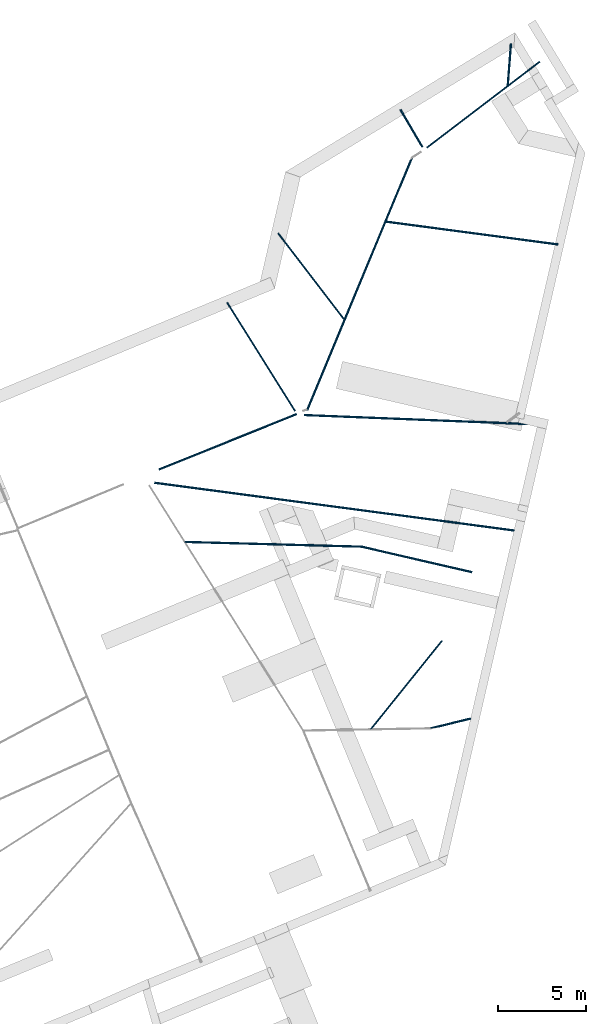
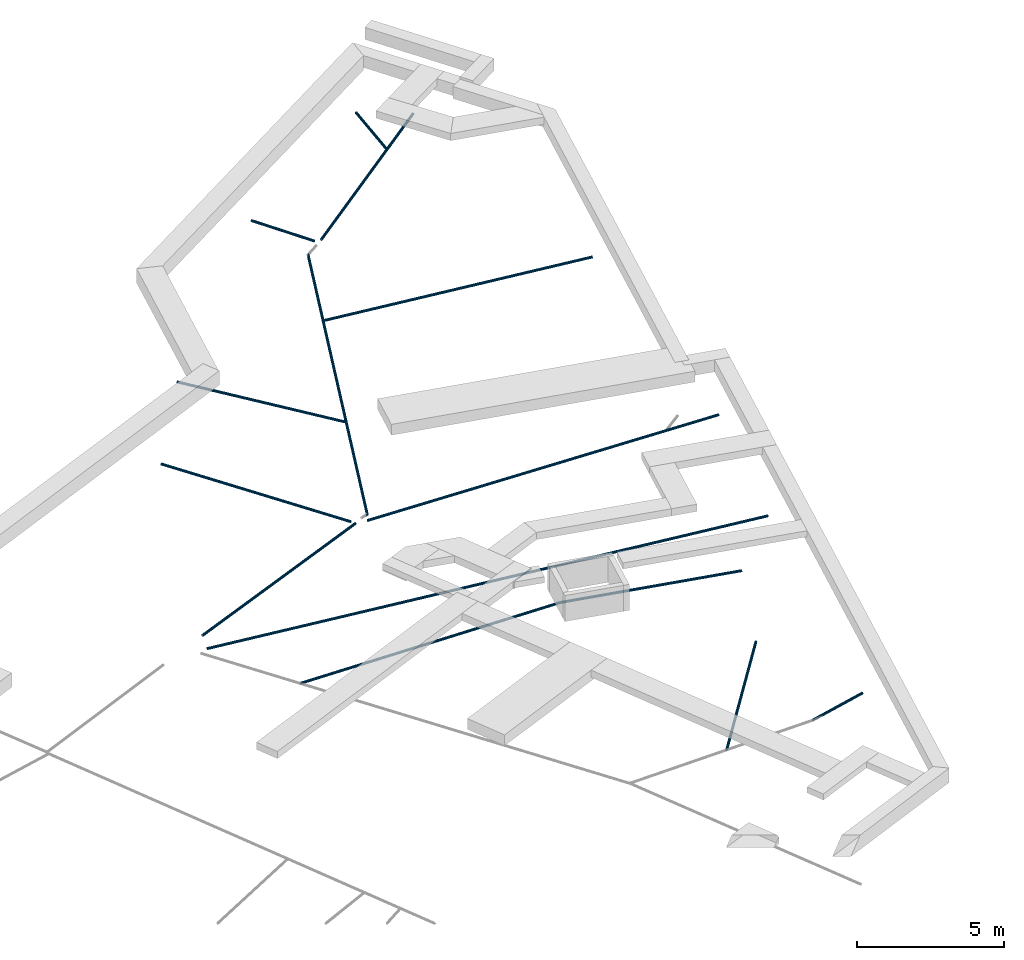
# One storey, part 2 of 6: 14 walls.
"""IFC2X3 building model written with IfcOpenShell, lengths in metres."""

from ifc_helpers import new_model, entity, si_unit, converted_unit, derived_unit, money_unit, direction, frame, origin_with_axes, place, context, subcontext, project, spatial, faceted_brep, material, type_object, element, save


model = new_model("IFC2X3")

# Units and contexts
model_context = context("Model", 3, precision=1e-05, world=origin_with_axes(), true_north=direction((0.0, 1.0)))
body_context = subcontext(model_context, "Body", "Model", "MODEL_VIEW")
ifc_project = project(units=[si_unit("LENGTHUNIT", "METRE"), si_unit("AREAUNIT", "SQUARE_METRE"), si_unit("VOLUMEUNIT", "CUBIC_METRE"), converted_unit("PLANEANGLEUNIT", "DEGREE", entity("IfcPlaneAngleMeasure", 0.0174532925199), si_unit("PLANEANGLEUNIT", "RADIAN"), dimensions=[0, 0, 0, 0, 0, 0, 0]), si_unit("SOLIDANGLEUNIT", "STERADIAN"), money_unit("EUR"), converted_unit("TIMEUNIT", "Year", entity("IfcTimeMeasure", 31556926.0), si_unit("TIMEUNIT", "SECOND"), dimensions=[0, 0, 1, 0, 0, 0, 0]), si_unit("MASSUNIT", "GRAM", prefix="KILO"), si_unit("THERMODYNAMICTEMPERATUREUNIT", "DEGREE_CELSIUS"), si_unit("LUMINOUSINTENSITYUNIT", "LUMEN"), si_unit("ENERGYUNIT", "JOULE", prefix="MEGA"), derived_unit("THERMALCONDUCTANCEUNIT", [(si_unit("POWERUNIT", "WATT"), 1), (si_unit("LENGTHUNIT", "METRE"), -1), (si_unit("THERMODYNAMICTEMPERATUREUNIT", "KELVIN"), -1)]), derived_unit("SPECIFICHEATCAPACITYUNIT", [(si_unit("ENERGYUNIT", "JOULE"), 1), (si_unit("MASSUNIT", "GRAM", prefix="KILO"), -1), (si_unit("THERMODYNAMICTEMPERATUREUNIT", "KELVIN"), -1)]), derived_unit("MASSDENSITYUNIT", [(si_unit("MASSUNIT", "GRAM", prefix="KILO"), 1), (si_unit("VOLUMEUNIT", "CUBIC_METRE"), -1)])], contexts=[model_context])

# Site, building, storey
site_placement = place(None, origin_with_axes())
site = spatial("IfcSite", under=ifc_project, at=site_placement, Name="Site", CompositionType="ELEMENT")
building_placement = place(site_placement, origin_with_axes())
building = spatial("IfcBuilding", under=site, at=building_placement, Name="Bâtiment", CompositionType="ELEMENT")
storey_placement = place(building_placement, frame((0.0, 0.0, -5.7), z_axis=(0.0, 0.0, 1.0), x_axis=(1.0, 0.0, 0.0)))
storey = spatial("IfcBuildingStorey", under=building, at=storey_placement, Name="-2. Etage", CompositionType="ELEMENT", Elevation=-5.7)

# Walls
ifc_material = material(Name="Plastique - PVC")
wall_type = type_object("IfcWallType", Name="Tuyau PVC 100 100 x 100", PredefinedType="ELEMENTEDWALL")
wall_1_placement = place(storey_placement, frame((-5.41813797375, 19.0816543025, 0.0), z_axis=(0.0, 0.0, 1.0), x_axis=(-0.383494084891, -0.923543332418, 0.0)))
element("IfcWall", 1, at=wall_1_placement, inside=storey, type_object=wall_type, material=ifc_material, Name="M_Ext-015", ObjectType="ELEMENTEDWALL", context=body_context, shape_type="Brep", body=[
    faceted_brep([(15.5886469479, 0.0461939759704, -0.0191341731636), (0.0143581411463, 0.0461939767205, -0.0191341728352), (0.0155411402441, 0.049999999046, 0.0), (15.5904151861, 0.05, 0.0), (15.5836114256, 0.035355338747, -0.0353553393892), (0.0109892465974, 0.0353553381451, -0.035355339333), (0.160863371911, -0.05, 0.0), (0.14861837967, -0.046193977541, -0.0191341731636), (0.0143581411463, 0.0461939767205, 0.0191341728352), (15.5886469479, 0.0461939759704, 0.0191341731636), (15.674807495, -0.05, 0.0), (15.6666152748, -0.0461939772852, -0.0191341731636), (15.5760752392, 0.0191341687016, -0.0461939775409), (0.00594734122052, 0.0191341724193, -0.0461939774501), (0.11374758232, -0.0353553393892, -0.0353553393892), (15.6432857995, -0.0353553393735, -0.0353553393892), (0.14861837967, -0.0461939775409, 0.0191341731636), (0.0109892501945, 0.0353553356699, 0.035355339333), (15.5836114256, 0.035355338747, 0.0353553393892), (15.6666152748, -0.0461939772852, 0.0191341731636), (15.5671856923, 0.0, -0.05), (0.0, 0.0, -0.05), (0.0615597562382, -0.0191341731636, -0.0461939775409), (15.6083707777, -0.0191341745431, -0.0461939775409), (0.11374758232, -0.0353553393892, 0.0353553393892), (0.00594734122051, 0.0191341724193, 0.0461939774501), (15.5760752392, 0.0191341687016, 0.0461939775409), (15.6432857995, -0.0353553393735, 0.0353553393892), (0.0615597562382, -0.0191341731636, 0.0461939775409), (0.0, 0.0, 0.05), (15.5671856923, 0.0, 0.05), (15.6083707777, -0.0191341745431, 0.0461939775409)], [[[0, 1, 2, 3]], [[4, 5, 1, 0]], [[6, 2, 1, 7]], [[3, 2, 8, 9]], [[10, 11, 0, 3]], [[12, 13, 5, 4]], [[7, 1, 5, 14]], [[11, 15, 4, 0]], [[16, 8, 2, 6]], [[10, 6, 7, 11]], [[9, 8, 17, 18]], [[19, 10, 3, 9]], [[20, 21, 13, 12]], [[14, 5, 13, 22]], [[15, 23, 12, 4]], [[11, 7, 14, 15]], [[24, 17, 8, 16]], [[19, 16, 6, 10]], [[18, 17, 25, 26]], [[27, 19, 9, 18]], [[23, 22, 21, 20]], [[22, 13, 21]], [[12, 23, 20]], [[15, 14, 22, 23]], [[28, 25, 17, 24]], [[27, 24, 16, 19]], [[26, 25, 29, 30]], [[31, 27, 18, 26]], [[28, 29, 25]], [[31, 28, 24, 27]], [[30, 29, 28, 31]], [[30, 31, 26]]]),
])
wall_2_placement = place(storey_placement, frame((-8.3057929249, -3.13248174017, 0.0), z_axis=(0.0, 0.0, 1.0), x_axis=(-0.999644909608, 0.0266468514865, 0.0)))
element("IfcWall", 2, at=wall_2_placement, inside=storey, type_object=wall_type, material=ifc_material, Name="M_Ext-038", ObjectType="ELEMENTEDWALL", context=body_context, shape_type="Brep", body=[
    faceted_brep([(10.0581222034, 0.0191341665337, 0.0461939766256), (0.00192144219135, 0.0191341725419, 0.0461939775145), (0.0, 0.0, 0.05), (10.0938514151, 0.0, 0.05), (10.0278324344, 0.035355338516, 0.0353553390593), (0.00355035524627, 0.0353553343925, 0.035355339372), (0.190544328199, -0.0191341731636, 0.0461939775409), (10.0836044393, -0.0191341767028, 0.0461939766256), (10.0075934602, 0.04619397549, 0.0191341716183), (0.00463873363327, 0.0461939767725, 0.01913417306), (0.352079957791, -0.0353553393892, 0.0353553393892), (10.0749174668, -0.0353553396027, 0.0353553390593), (10.0004864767, 0.05, 0.0), (0.00502093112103, 0.049999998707, 0.0), (0.460014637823, -0.0461939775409, 0.0191341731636), (10.0691130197, -0.0461939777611, 0.0191341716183), (10.0075934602, 0.04619397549, -0.0191341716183), (0.00463873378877, 0.0461939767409, -0.01913417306), (0.497916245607, -0.05, 0.0), (10.0670747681, -0.05, 0.0), (10.0278324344, 0.035355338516, -0.0353553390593), (0.00355033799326, 0.0353553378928, -0.035355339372), (0.460014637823, -0.0461939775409, -0.0191341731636), (10.0691130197, -0.0461939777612, -0.0191341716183), (10.0581222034, 0.0191341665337, -0.0461939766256), (0.00192144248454, 0.0191341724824, -0.0461939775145), (0.352079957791, -0.0353553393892, -0.0353553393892), (10.0749174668, -0.0353553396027, -0.0353553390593), (10.0938514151, 0.0, -0.05), (0.0, 0.0, -0.05), (0.190544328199, -0.0191341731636, -0.0461939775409), (10.0836044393, -0.0191341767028, -0.0461939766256)], [[[0, 1, 2, 3]], [[4, 5, 1, 0]], [[1, 6, 2]], [[3, 2, 6, 7]], [[7, 0, 3]], [[8, 9, 5, 4]], [[6, 1, 5, 10]], [[11, 4, 0, 7]], [[7, 6, 10, 11]], [[12, 13, 9, 8]], [[10, 5, 9, 14]], [[15, 8, 4, 11]], [[11, 10, 14, 15]], [[16, 17, 13, 12]], [[14, 9, 13, 18]], [[19, 12, 8, 15]], [[15, 14, 18, 19]], [[20, 21, 17, 16]], [[18, 13, 17, 22]], [[23, 16, 12, 19]], [[19, 18, 22, 23]], [[24, 25, 21, 20]], [[22, 17, 21, 26]], [[27, 20, 16, 23]], [[23, 22, 26, 27]], [[28, 29, 25, 24]], [[26, 21, 25, 30]], [[31, 24, 20, 27]], [[27, 26, 30, 31]], [[31, 30, 29, 28]], [[30, 25, 29]], [[31, 28, 24]]]),
])
wall_3_placement = place(storey_placement, frame((-4.57787657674, 19.6350871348, 0.0), z_axis=(0.0, 0.0, 1.0), x_axis=(0.7954328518, 0.606041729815, 0.0)))
element("IfcWall", 3, at=wall_3_placement, inside=storey, type_object=wall_type, material=ifc_material, Name="M_Ext-011", ObjectType="ELEMENTEDWALL", context=body_context, shape_type="Brep", body=[
    faceted_brep([(0.0, -0.0461939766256, 0.0191341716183), (8.11656189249, -0.0461939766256, 0.0191341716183), (8.11656189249, -0.0353553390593, 0.0353553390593), (0.0, -0.0353553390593, 0.0353553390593), (0.0, -0.05, 0.0), (8.11656189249, -0.05, 0.0), (8.11656189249, -0.0461939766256, -0.0191341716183), (8.11656189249, -0.0353553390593, -0.0353553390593), (8.11656189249, -0.0191341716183, -0.0461939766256), (8.11656189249, 0.0, -0.05), (8.11656189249, 0.0191341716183, -0.0461939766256), (8.11656189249, 0.0353553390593, -0.0353553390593), (8.11656189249, 0.0461939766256, -0.0191341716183), (8.11656189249, 0.05, 0.0), (8.11656189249, 0.0461939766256, 0.0191341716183), (8.11656189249, 0.0353553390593, 0.0353553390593), (8.11656189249, 0.0191341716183, 0.0461939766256), (8.11656189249, 0.0, 0.05), (8.11656189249, -0.0191341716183, 0.0461939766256), (0.0, -0.0191341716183, 0.0461939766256), (0.0, 0.0, 0.05), (0.0, 0.0191341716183, 0.0461939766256), (0.0, 0.0353553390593, 0.0353553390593), (0.0, 0.0461939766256, 0.0191341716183), (0.0, 0.05, 0.0), (0.0, 0.0461939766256, -0.0191341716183), (0.0, 0.0353553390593, -0.0353553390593), (0.0, 0.0191341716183, -0.0461939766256), (0.0, 0.0, -0.05), (0.0, -0.0191341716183, -0.0461939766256), (0.0, -0.0353553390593, -0.0353553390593), (0.0, -0.0461939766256, -0.0191341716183)], [[[0, 1, 2, 3]], [[4, 5, 1, 0]], [[2, 1, 5, 6, 7, 8, 9, 10, 11, 12, 13, 14, 15, 16, 17, 18]], [[3, 2, 18, 19]], [[4, 0, 3, 19, 20, 21, 22, 23, 24, 25, 26, 27, 28, 29, 30, 31]], [[31, 6, 5, 4]], [[30, 7, 6, 31]], [[29, 8, 7, 30]], [[28, 9, 8, 29]], [[27, 10, 9, 28]], [[26, 11, 10, 27]], [[25, 12, 11, 26]], [[24, 13, 12, 25]], [[23, 14, 13, 24]], [[22, 15, 14, 23]], [[21, 16, 15, 22]], [[20, 17, 16, 21]], [[19, 18, 17, 20]]]),
])
wall_4_placement = place(storey_placement, frame((0.227461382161, 25.5768181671, 0.0), z_axis=(0.0, 0.0, 1.0), x_axis=(-0.0766655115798, -0.997056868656, 0.0)))
element("IfcWall", 4, at=wall_4_placement, inside=storey, type_object=wall_type, material=ifc_material, Name="M_Ext-012", ObjectType="ELEMENTEDWALL", context=body_context, shape_type="Brep", body=[
    faceted_brep([(0.0, 0.0461939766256, 0.0191341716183), (2.32657449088, 0.0461939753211, 0.0191341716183), (2.3180857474, 0.05, 0.0), (0.0, 0.05, 0.0), (0.0, 0.0353553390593, 0.0353553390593), (2.35074838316, 0.035355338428, 0.0353553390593), (2.40718489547, -0.05, 0.0), (2.40889137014, -0.0461939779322, 0.0191341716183), (2.32657449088, 0.0461939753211, -0.0191341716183), (0.0, 0.0461939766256, -0.0191341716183), (0.0, -0.0353553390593, -0.0353553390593), (0.0, -0.0461939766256, -0.0191341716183), (0.0, -0.05, 0.0), (0.0, -0.0461939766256, 0.0191341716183), (0.0, -0.0353553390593, 0.0353553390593), (0.0, -0.0191341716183, 0.0461939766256), (0.0, 0.0, 0.05), (0.0, 0.0191341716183, 0.0461939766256), (0.0, 0.0353553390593, -0.0353553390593), (0.0, 0.0191341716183, -0.0461939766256), (0.0, 0.0, -0.05), (0.0, -0.0191341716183, -0.0461939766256), (2.38692717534, 0.0191341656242, 0.0461939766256), (2.41375099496, -0.0353553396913, 0.0353553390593), (2.40889137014, -0.0461939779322, -0.0191341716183), (2.35074838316, 0.035355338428, -0.0353553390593), (2.41375099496, -0.0353553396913, -0.0353553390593), (2.42102394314, -0.0191341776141, 0.0461939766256), (2.42960295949, 0.0, 0.05), (2.38692717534, 0.0191341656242, -0.0461939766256), (2.42960295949, 0.0, -0.05), (2.42102394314, -0.0191341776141, -0.0461939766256)], [[[0, 1, 2, 3]], [[4, 5, 1, 0]], [[6, 2, 1, 7]], [[3, 2, 8, 9]], [[10, 11, 12, 13, 14, 15, 16, 17, 4, 0, 3, 9, 18, 19, 20, 21]], [[17, 22, 5, 4]], [[7, 1, 5, 23]], [[24, 8, 2, 6]], [[12, 6, 7, 13]], [[9, 8, 25, 18]], [[10, 26, 24, 11]], [[11, 24, 6, 12]], [[13, 7, 23, 14]], [[14, 23, 27, 15]], [[15, 27, 28, 16]], [[16, 28, 22, 17]], [[18, 25, 29, 19]], [[19, 29, 30, 20]], [[20, 30, 31, 21]], [[21, 31, 26, 10]], [[23, 5, 22, 27]], [[26, 25, 8, 24]], [[27, 22, 28]], [[31, 29, 25, 26]], [[31, 30, 29]]]),
])
wall_5_placement = place(storey_placement, frame((2.91325547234, 14.1181964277, 0.0), z_axis=(0.0, 0.0, 1.0), x_axis=(-0.991334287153, 0.131363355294, 0.0)))
element("IfcWall", 5, at=wall_5_placement, inside=storey, type_object=wall_type, material=ifc_material, Name="M_Ext-017", ObjectType="ELEMENTEDWALL", context=body_context, shape_type="Brep", body=[
    faceted_brep([(0.0, -0.0461939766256, -0.0191341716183), (9.87632051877, -0.0461939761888, -0.0191341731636), (9.87136024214, -0.04999999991, 0.0), (0.0, -0.05, 0.0), (0.0, -0.0353553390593, -0.0353553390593), (9.89044619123, -0.0353553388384, -0.0353553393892), (9.89815871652, 0.05000000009, 0.0), (9.90107908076, 0.0461939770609, -0.0191341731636), (9.8763205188, -0.0461939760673, 0.0191341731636), (0.0, -0.0461939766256, 0.0191341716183), (0.0, -0.0353553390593, 0.0353553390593), (0.0, -0.0191341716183, 0.0461939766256), (0.0, 0.0, 0.05), (0.0, 0.0191341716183, 0.0461939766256), (0.0, 0.0353553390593, 0.0353553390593), (0.0, 0.0461939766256, 0.0191341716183), (0.0, 0.05, 0.0), (0.0, 0.0461939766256, -0.0191341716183), (0.0, 0.0353553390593, -0.0353553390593), (0.0, 0.0191341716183, -0.0461939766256), (0.0, 0.0, -0.05), (0.0, -0.0191341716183, -0.0461939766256), (9.91158675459, -0.0191341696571, -0.0461939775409), (9.90939557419, 0.0353553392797, -0.0353553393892), (9.9010790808, 0.0461939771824, 0.0191341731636), (9.89044619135, -0.0353553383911, 0.0353553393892), (9.91158675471, -0.0191341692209, 0.0461939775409), (9.93652374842, 0.0, 0.05), (9.92184208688, 0.019134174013, 0.0461939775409), (9.90939557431, 0.035355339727, 0.0353553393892), (9.92184208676, 0.0191341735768, -0.0461939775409), (9.93652374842, 0.0, -0.05)], [[[0, 1, 2, 3]], [[4, 5, 1, 0]], [[6, 2, 1, 7]], [[3, 2, 8, 9]], [[4, 0, 3, 9, 10, 11, 12, 13, 14, 15, 16, 17, 18, 19, 20, 21]], [[21, 22, 5, 4]], [[7, 1, 5, 23]], [[24, 8, 2, 6]], [[16, 6, 7, 17]], [[9, 8, 25, 10]], [[10, 25, 26, 11]], [[11, 26, 27, 12]], [[12, 27, 28, 13]], [[13, 28, 29, 14]], [[14, 29, 24, 15]], [[15, 24, 6, 16]], [[17, 7, 23, 18]], [[18, 23, 30, 19]], [[19, 30, 31, 20]], [[20, 31, 22, 21]], [[23, 5, 22, 30]], [[29, 25, 8, 24]], [[28, 26, 25, 29]], [[28, 27, 26]], [[30, 22, 31]]]),
])
wall_6_placement = place(storey_placement, frame((-3.70029176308, -8.49489079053, 0.0), z_axis=(0.0, 0.0, 1.0), x_axis=(-0.626757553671, -0.779214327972, 0.0)))
element("IfcWall", 6, at=wall_6_placement, inside=storey, type_object=wall_type, material=ifc_material, Name="M_Ext-035", ObjectType="ELEMENTEDWALL", context=body_context, shape_type="Brep", body=[
    faceted_brep([(0.0, 0.0461939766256, 0.0191341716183), (6.4021112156, 0.0461939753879, 0.0191341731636), (6.39398142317, 0.05, 0.0), (0.0, 0.05, 0.0), (0.0, 0.0353553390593, 0.0353553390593), (6.42526290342, 0.0353553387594, 0.0353553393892), (6.47737520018, -0.05, 0.0), (6.47915701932, -0.0461939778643, 0.0191341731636), (6.40211121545, 0.0461939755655, -0.0191341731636), (0.0, 0.0461939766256, -0.0191341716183), (0.0, -0.0353553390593, -0.0353553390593), (0.0, -0.0461939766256, -0.0191341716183), (0.0, -0.05, 0.0), (0.0, -0.0461939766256, 0.0191341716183), (0.0, -0.0353553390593, 0.0353553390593), (0.0, -0.0191341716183, 0.0461939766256), (0.0, 0.0, 0.05), (0.0, 0.0191341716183, 0.0461939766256), (0.0, 0.0353553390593, -0.0353553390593), (0.0, 0.0191341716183, -0.0461939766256), (0.0, 0.0, -0.05), (0.0, -0.0191341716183, -0.0461939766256), (6.45991185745, 0.0191341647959, 0.0461939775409), (6.48423120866, -0.0353553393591, 0.0353553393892), (6.47915701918, -0.0461939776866, -0.0191341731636), (6.42526290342, 0.0353553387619, -0.0353553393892), (6.48423120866, -0.0353553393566, -0.0353553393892), (6.49182527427, -0.0191341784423, 0.0461939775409), (6.50078307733, 0.0, 0.05), (6.45991185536, 0.0191341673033, -0.0461939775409), (6.50078307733, 0.0, -0.05), (6.49182527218, -0.0191341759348, -0.0461939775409)], [[[0, 1, 2, 3]], [[4, 5, 1, 0]], [[6, 2, 1, 7]], [[3, 2, 8, 9]], [[10, 11, 12, 13, 14, 15, 16, 17, 4, 0, 3, 9, 18, 19, 20, 21]], [[17, 22, 5, 4]], [[7, 1, 5, 23]], [[24, 8, 2, 6]], [[12, 6, 7, 13]], [[9, 8, 25, 18]], [[10, 26, 24, 11]], [[11, 24, 6, 12]], [[13, 7, 23, 14]], [[14, 23, 27, 15]], [[15, 27, 28, 16]], [[16, 28, 22, 17]], [[18, 25, 29, 19]], [[19, 29, 30, 20]], [[20, 30, 31, 21]], [[21, 31, 26, 10]], [[23, 5, 22, 27]], [[26, 25, 8, 24]], [[27, 22, 28]], [[31, 29, 25, 26]], [[31, 30, 29]]]),
])
wall_7_placement = place(storey_placement, frame((-2.07501762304, -12.9489072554, 0.0), z_axis=(0.0, 0.0, 1.0), x_axis=(-0.971939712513, -0.235230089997, 0.0)))
element("IfcWall", 7, at=wall_7_placement, inside=storey, type_object=wall_type, material=ifc_material, Name="M_Ext-036", ObjectType="ELEMENTEDWALL", context=body_context, shape_type="Brep", body=[
    faceted_brep([(0.0, 0.0461939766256, 0.0191341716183), (1.92300293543, 0.0461939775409, 0.0191341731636), (1.88850215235, 0.05, 0.0), (0.0, 0.05, 0.0), (0.0, 0.0353553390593, 0.0353553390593), (2.02125287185, 0.0353553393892, 0.0353553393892), (2.33622561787, -0.05, 0.0), (2.33664549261, -0.0461939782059, 0.0191341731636), (1.92300293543, 0.0461939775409, -0.0191341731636), (0.0, 0.0461939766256, -0.0191341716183), (0.0, -0.0353553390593, -0.0353553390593), (0.0, -0.0461939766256, -0.0191341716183), (0.0, -0.05, 0.0), (0.0, -0.0461939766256, 0.0191341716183), (0.0, -0.0353553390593, 0.0353553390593), (0.0, -0.0191341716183, 0.0461939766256), (0.0, 0.0, 0.05), (0.0, 0.0191341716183, 0.0461939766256), (0.0, 0.0353553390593, -0.0353553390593), (0.0, 0.0191341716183, -0.0461939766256), (0.0, 0.0, -0.05), (0.0, -0.0191341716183, -0.0461939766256), (2.16829427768, 0.0191341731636, 0.0461939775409), (2.33784117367, -0.0353553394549, 0.0353553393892), (2.33664549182, -0.0461939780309, -0.0191341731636), (2.02125287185, 0.0353553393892, -0.0353553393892), (2.33784117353, -0.0353553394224, -0.0353553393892), (2.33963068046, -0.0191341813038, 0.0461939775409), (2.34174146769, 0.0, 0.05), (2.16829427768, 0.0191341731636, -0.0461939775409), (2.34174146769, 0.0, -0.05), (2.33963066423, -0.0191341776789, -0.0461939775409)], [[[0, 1, 2, 3]], [[4, 5, 1, 0]], [[6, 2, 1, 7]], [[3, 2, 8, 9]], [[10, 11, 12, 13, 14, 15, 16, 17, 4, 0, 3, 9, 18, 19, 20, 21]], [[17, 22, 5, 4]], [[7, 1, 5, 23]], [[24, 8, 2, 6]], [[12, 6, 7, 13]], [[9, 8, 25, 18]], [[10, 26, 24, 11]], [[11, 24, 6, 12]], [[13, 7, 23, 14]], [[14, 23, 27, 15]], [[15, 27, 28, 16]], [[16, 28, 22, 17]], [[18, 25, 29, 19]], [[19, 29, 30, 20]], [[20, 30, 31, 21]], [[21, 31, 26, 10]], [[23, 5, 22, 27]], [[26, 25, 8, 24]], [[27, 22, 28]], [[31, 29, 25, 26]], [[31, 30, 29]]]),
])
wall_8_placement = place(storey_placement, frame((-1.99702034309, -4.58846617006, 0.0), z_axis=(0.0, 0.0, 1.0), x_axis=(-0.974387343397, 0.224876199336, 0.0)))
element("IfcWall", 8, at=wall_8_placement, inside=storey, type_object=wall_type, material=ifc_material, Name="M_Ext-037", ObjectType="ELEMENTEDWALL", context=body_context, shape_type="Brep", body=[
    faceted_brep([(0.0, -0.0461939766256, -0.0191341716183), (6.47924314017, -0.0461939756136, -0.0191341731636), (6.47962532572, -0.05, 0.0), (0.0, -0.05, 0.0), (0.0, -0.0353553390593, -0.0353553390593), (6.47815473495, -0.0353553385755, -0.0353553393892), (6.97252064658, 0.05, 0.0), (6.93461903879, 0.0461939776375, -0.0191341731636), (6.47924314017, -0.0461939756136, 0.0191341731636), (0.0, -0.0461939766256, 0.0191341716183), (0.0, -0.0353553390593, 0.0353553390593), (0.0, -0.0191341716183, 0.0461939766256), (0.0, 0.0, 0.05), (0.0, 0.0191341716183, 0.0461939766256), (0.0, 0.0353553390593, 0.0353553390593), (0.0, 0.0461939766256, 0.0191341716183), (0.0, 0.05, 0.0), (0.0, 0.0461939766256, -0.0191341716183), (0.0, 0.0353553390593, -0.0353553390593), (0.0, 0.0191341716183, -0.0461939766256), (0.0, 0.0, -0.05), (0.0, -0.0191341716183, -0.0461939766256), (6.47652585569, -0.0191341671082, -0.0461939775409), (6.82668435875, 0.0353553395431, -0.0353553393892), (6.93461903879, 0.0461939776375, 0.0191341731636), (6.47815473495, -0.0353553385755, 0.0353553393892), (6.47652585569, -0.0191341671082, 0.0461939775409), (6.47460440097, 0.0, 0.05), (6.66514872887, 0.0191341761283, 0.0461939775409), (6.82668435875, 0.0353553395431, 0.0353553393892), (6.66514872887, 0.0191341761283, -0.0461939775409), (6.47460440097, 0.0, -0.05)], [[[0, 1, 2, 3]], [[4, 5, 1, 0]], [[6, 2, 1, 7]], [[3, 2, 8, 9]], [[0, 3, 9, 10, 11, 12, 13, 14, 15, 16, 17, 18, 19, 20, 21, 4]], [[21, 22, 5, 4]], [[7, 1, 5, 23]], [[24, 8, 2, 6]], [[16, 6, 7, 17]], [[9, 8, 25, 10]], [[10, 25, 26, 11]], [[11, 26, 27, 12]], [[12, 27, 28, 13]], [[13, 28, 29, 14]], [[14, 29, 24, 15]], [[15, 24, 6, 16]], [[17, 7, 23, 18]], [[18, 23, 30, 19]], [[19, 30, 31, 20]], [[20, 31, 22, 21]], [[23, 5, 22, 30]], [[29, 25, 8, 24]], [[28, 26, 25, 29]], [[28, 27, 26]], [[30, 22, 31]]]),
])
wall_9_placement = place(storey_placement, frame((-6.07591618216, 21.8100402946, 0.0), z_axis=(0.0, 0.0, 1.0), x_axis=(0.506746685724, -0.86209500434, 0.0)))
element("IfcWall", 9, at=wall_9_placement, inside=storey, type_object=wall_type, material=ifc_material, Name="M_Ext-013", ObjectType="ELEMENTEDWALL", context=body_context, shape_type="Brep", body=[
    faceted_brep([(0.0, -0.0461939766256, 0.0191341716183), (2.47487019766, -0.0461939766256, 0.0191341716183), (2.47487019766, -0.0353553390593, 0.0353553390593), (0.0, -0.0353553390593, 0.0353553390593), (0.0, -0.05, 0.0), (2.47487019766, -0.05, 0.0), (2.47487019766, -0.0461939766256, -0.0191341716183), (2.47487019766, -0.0353553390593, -0.0353553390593), (2.47487019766, -0.0191341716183, -0.0461939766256), (2.47487019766, 0.0, -0.05), (2.47487019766, 0.0191341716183, -0.0461939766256), (2.47487019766, 0.0353553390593, -0.0353553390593), (2.47487019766, 0.0461939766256, -0.0191341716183), (2.47487019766, 0.05, 0.0), (2.47487019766, 0.0461939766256, 0.0191341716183), (2.47487019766, 0.0353553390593, 0.0353553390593), (2.47487019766, 0.0191341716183, 0.0461939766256), (2.47487019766, 0.0, 0.05), (2.47487019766, -0.0191341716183, 0.0461939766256), (0.0, -0.0191341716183, 0.0461939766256), (0.0, 0.0, 0.05), (0.0, 0.0191341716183, 0.0461939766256), (0.0, 0.0353553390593, 0.0353553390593), (0.0, 0.0461939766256, 0.0191341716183), (0.0, 0.05, 0.0), (0.0, 0.0461939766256, -0.0191341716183), (0.0, 0.0353553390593, -0.0353553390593), (0.0, 0.0191341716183, -0.0461939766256), (0.0, 0.0, -0.05), (0.0, -0.0191341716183, -0.0461939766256), (0.0, -0.0353553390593, -0.0353553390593), (0.0, -0.0461939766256, -0.0191341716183)], [[[0, 1, 2, 3]], [[4, 5, 1, 0]], [[2, 1, 5, 6, 7, 8, 9, 10, 11, 12, 13, 14, 15, 16, 17, 18]], [[3, 2, 18, 19]], [[4, 0, 3, 19, 20, 21, 22, 23, 24, 25, 26, 27, 28, 29, 30, 31]], [[31, 6, 5, 4]], [[30, 7, 6, 31]], [[29, 8, 7, 30]], [[28, 9, 8, 29]], [[27, 10, 9, 28]], [[26, 11, 10, 27]], [[25, 12, 11, 26]], [[24, 13, 12, 25]], [[23, 14, 13, 24]], [[22, 15, 14, 23]], [[21, 16, 15, 22]], [[20, 17, 16, 21]], [[19, 18, 17, 20]]]),
])
wall_10_placement = place(storey_placement, frame((-13.0670804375, 14.7628981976, 0.0), z_axis=(0.0, 0.0, 1.0), x_axis=(0.608006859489, -0.793931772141, 0.0)))
element("IfcWall", 10, at=wall_10_placement, inside=storey, type_object=wall_type, material=ifc_material, Name="M_Ext-018", ObjectType="ELEMENTEDWALL", context=body_context, shape_type="Brep", body=[
    faceted_brep([(0.0, -0.0461939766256, 0.0191341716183), (6.18704568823, -0.0461939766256, 0.0191341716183), (6.18704568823, -0.0353553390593, 0.0353553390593), (0.0, -0.0353553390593, 0.0353553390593), (0.0, -0.05, 0.0), (6.18704568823, -0.05, 0.0), (6.18704568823, -0.0461939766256, -0.0191341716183), (6.18704568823, -0.0353553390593, -0.0353553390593), (6.18704568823, -0.0191341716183, -0.0461939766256), (6.18704568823, 0.0, -0.05), (6.18704568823, 0.0191341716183, -0.0461939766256), (6.18704568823, 0.0353553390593, -0.0353553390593), (6.18704568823, 0.0461939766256, -0.0191341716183), (6.18704568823, 0.05, 0.0), (6.18704568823, 0.0461939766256, 0.0191341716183), (6.18704568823, 0.0353553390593, 0.0353553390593), (6.18704568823, 0.0191341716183, 0.0461939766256), (6.18704568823, 0.0, 0.05), (6.18704568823, -0.0191341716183, 0.0461939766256), (0.0, -0.0191341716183, 0.0461939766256), (0.0, 0.0, 0.05), (0.0, 0.0191341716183, 0.0461939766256), (0.0, 0.0353553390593, 0.0353553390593), (0.0, 0.0461939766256, 0.0191341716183), (0.0, 0.05, 0.0), (0.0, 0.0461939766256, -0.0191341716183), (0.0, 0.0353553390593, -0.0353553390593), (0.0, 0.0191341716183, -0.0461939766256), (0.0, 0.0, -0.05), (0.0, -0.0191341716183, -0.0461939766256), (0.0, -0.0353553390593, -0.0353553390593), (0.0, -0.0461939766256, -0.0191341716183)], [[[0, 1, 2, 3]], [[4, 5, 1, 0]], [[2, 1, 5, 6, 7, 8, 9, 10, 11, 12, 13, 14, 15, 16, 17, 18]], [[3, 2, 18, 19]], [[4, 0, 3, 19, 20, 21, 22, 23, 24, 25, 26, 27, 28, 29, 30, 31]], [[31, 6, 5, 4]], [[30, 7, 6, 31]], [[29, 8, 7, 30]], [[28, 9, 8, 29]], [[27, 10, 9, 28]], [[26, 11, 10, 27]], [[25, 12, 11, 26]], [[24, 13, 12, 25]], [[23, 14, 13, 24]], [[22, 15, 14, 23]], [[21, 16, 15, 22]], [[20, 17, 16, 21]], [[19, 18, 17, 20]]]),
])
wall_11_placement = place(storey_placement, frame((-15.9768072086, 10.8074624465, 0.0), z_axis=(0.0, 0.0, 1.0), x_axis=(0.530596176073, -0.847624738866, 0.0)))
element("IfcWall", 11, at=wall_11_placement, inside=storey, type_object=wall_type, material=ifc_material, Name="M_Ext-019", ObjectType="ELEMENTEDWALL", context=body_context, shape_type="Brep", body=[
    faceted_brep([(0.0, -0.0461939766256, 0.0191341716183), (7.32872293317, -0.0461939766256, 0.0191341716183), (7.32872293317, -0.0353553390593, 0.0353553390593), (0.0, -0.0353553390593, 0.0353553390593), (0.0, -0.05, 0.0), (7.32872293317, -0.05, 0.0), (7.32872293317, -0.0461939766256, -0.0191341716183), (7.32872293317, -0.0353553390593, -0.0353553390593), (7.32872293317, -0.0191341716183, -0.0461939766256), (7.32872293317, 0.0, -0.05), (7.32872293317, 0.0191341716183, -0.0461939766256), (7.32872293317, 0.0353553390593, -0.0353553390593), (7.32872293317, 0.0461939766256, -0.0191341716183), (7.32872293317, 0.05, 0.0), (7.32872293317, 0.0461939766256, 0.0191341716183), (7.32872293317, 0.0353553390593, 0.0353553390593), (7.32872293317, 0.0191341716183, 0.0461939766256), (7.32872293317, 0.0, 0.05), (7.32872293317, -0.0191341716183, 0.0461939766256), (0.0, -0.0191341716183, 0.0461939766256), (0.0, 0.0, 0.05), (0.0, 0.0191341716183, 0.0461939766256), (0.0, 0.0353553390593, 0.0353553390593), (0.0, 0.0461939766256, 0.0191341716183), (0.0, 0.05, 0.0), (0.0, 0.0461939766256, -0.0191341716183), (0.0, 0.0353553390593, -0.0353553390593), (0.0, 0.0191341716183, -0.0461939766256), (0.0, 0.0, -0.05), (0.0, -0.0191341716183, -0.0461939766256), (0.0, -0.0353553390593, -0.0353553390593), (0.0, -0.0461939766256, -0.0191341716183)], [[[0, 1, 2, 3]], [[4, 5, 1, 0]], [[2, 1, 5, 6, 7, 8, 9, 10, 11, 12, 13, 14, 15, 16, 17, 18]], [[3, 2, 18, 19]], [[4, 0, 3, 19, 20, 21, 22, 23, 24, 25, 26, 27, 28, 29, 30, 31]], [[31, 6, 5, 4]], [[30, 7, 6, 31]], [[29, 8, 7, 30]], [[28, 9, 8, 29]], [[27, 10, 9, 28]], [[26, 11, 10, 27]], [[25, 12, 11, 26]], [[24, 13, 12, 25]], [[23, 14, 13, 24]], [[22, 15, 14, 23]], [[21, 16, 15, 22]], [[20, 17, 16, 21]], [[19, 18, 17, 20]]]),
])
wall_12_placement = place(storey_placement, frame((1.95430741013, 3.83592941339, 0.0), z_axis=(0.0, 0.0, 1.0), x_axis=(-0.999193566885, 0.040152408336, 0.0)))
element("IfcWall", 12, at=wall_12_placement, inside=storey, type_object=wall_type, material=ifc_material, Name="M_Ext-020", ObjectType="ELEMENTEDWALL", context=body_context, shape_type="Brep", body=[
    faceted_brep([(0.0, -0.0461939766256, 0.0191341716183), (13.5307081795, -0.0461939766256, 0.0191341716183), (13.5307081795, -0.0353553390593, 0.0353553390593), (0.0, -0.0353553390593, 0.0353553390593), (0.0, -0.05, 0.0), (13.5307081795, -0.05, 0.0), (13.5307081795, -0.0461939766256, -0.0191341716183), (13.5307081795, -0.0353553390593, -0.0353553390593), (13.5307081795, -0.0191341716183, -0.0461939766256), (13.5307081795, 0.0, -0.05), (13.5307081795, 0.0191341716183, -0.0461939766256), (13.5307081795, 0.0353553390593, -0.0353553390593), (13.5307081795, 0.0461939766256, -0.0191341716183), (13.5307081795, 0.05, 0.0), (13.5307081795, 0.0461939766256, 0.0191341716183), (13.5307081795, 0.0353553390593, 0.0353553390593), (13.5307081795, 0.0191341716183, 0.0461939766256), (13.5307081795, 0.0, 0.05), (13.5307081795, -0.0191341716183, 0.0461939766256), (0.0, -0.0191341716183, 0.0461939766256), (0.0, 0.0, 0.05), (0.0, 0.0191341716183, 0.0461939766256), (0.0, 0.0353553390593, 0.0353553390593), (0.0, 0.0461939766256, 0.0191341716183), (0.0, 0.05, 0.0), (0.0, 0.0461939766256, -0.0191341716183), (0.0, 0.0353553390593, -0.0353553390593), (0.0, 0.0191341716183, -0.0461939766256), (0.0, 0.0, -0.05), (0.0, -0.0191341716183, -0.0461939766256), (0.0, -0.0353553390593, -0.0353553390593), (0.0, -0.0461939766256, -0.0191341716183)], [[[0, 1, 2, 3]], [[4, 5, 1, 0]], [[2, 1, 5, 6, 7, 8, 9, 10, 11, 12, 13, 14, 15, 16, 17, 18]], [[3, 2, 18, 19]], [[4, 0, 3, 19, 20, 21, 22, 23, 24, 25, 26, 27, 28, 29, 30, 31]], [[31, 6, 5, 4]], [[30, 7, 6, 31]], [[29, 8, 7, 30]], [[28, 9, 8, 29]], [[27, 10, 9, 28]], [[26, 11, 10, 27]], [[25, 12, 11, 26]], [[24, 13, 12, 25]], [[23, 14, 13, 24]], [[22, 15, 14, 23]], [[21, 16, 15, 22]], [[20, 17, 16, 21]], [[19, 18, 17, 20]]]),
])
wall_13_placement = place(storey_placement, frame((-12.0098047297, 4.43250724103, 0.0), z_axis=(0.0, 0.0, 1.0), x_axis=(-0.927585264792, -0.373611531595, 0.0)))
element("IfcWall", 13, at=wall_13_placement, inside=storey, type_object=wall_type, material=ifc_material, Name="M_Ext-022", ObjectType="ELEMENTEDWALL", context=body_context, shape_type="Brep", body=[
    faceted_brep([(0.0, -0.0461939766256, 0.0191341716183), (8.45785225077, -0.0461939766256, 0.0191341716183), (8.45785225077, -0.0353553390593, 0.0353553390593), (0.0, -0.0353553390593, 0.0353553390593), (0.0, -0.05, 0.0), (8.45785225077, -0.05, 0.0), (8.45785225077, -0.0461939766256, -0.0191341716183), (8.45785225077, -0.0353553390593, -0.0353553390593), (8.45785225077, -0.0191341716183, -0.0461939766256), (8.45785225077, 0.0, -0.05), (8.45785225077, 0.0191341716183, -0.0461939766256), (8.45785225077, 0.0353553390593, -0.0353553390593), (8.45785225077, 0.0461939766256, -0.0191341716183), (8.45785225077, 0.05, 0.0), (8.45785225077, 0.0461939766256, 0.0191341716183), (8.45785225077, 0.0353553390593, 0.0353553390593), (8.45785225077, 0.0191341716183, 0.0461939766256), (8.45785225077, 0.0, 0.05), (8.45785225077, -0.0191341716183, 0.0461939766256), (0.0, -0.0191341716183, 0.0461939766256), (0.0, 0.0, 0.05), (0.0, 0.0191341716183, 0.0461939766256), (0.0, 0.0353553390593, 0.0353553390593), (0.0, 0.0461939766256, 0.0191341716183), (0.0, 0.05, 0.0), (0.0, 0.0461939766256, -0.0191341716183), (0.0, 0.0353553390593, -0.0353553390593), (0.0, 0.0191341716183, -0.0461939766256), (0.0, 0.0, -0.05), (0.0, -0.0191341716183, -0.0461939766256), (0.0, -0.0353553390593, -0.0353553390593), (0.0, -0.0461939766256, -0.0191341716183)], [[[0, 1, 2, 3]], [[4, 5, 1, 0]], [[2, 1, 5, 6, 7, 8, 9, 10, 11, 12, 13, 14, 15, 16, 17, 18]], [[3, 2, 18, 19]], [[4, 0, 3, 19, 20, 21, 22, 23, 24, 25, 26, 27, 28, 29, 30, 31]], [[31, 6, 5, 4]], [[30, 7, 6, 31]], [[29, 8, 7, 30]], [[28, 9, 8, 29]], [[27, 10, 9, 28]], [[26, 11, 10, 27]], [[25, 12, 11, 26]], [[24, 13, 12, 25]], [[23, 14, 13, 24]], [[22, 15, 14, 23]], [[21, 16, 15, 22]], [[20, 17, 16, 21]], [[19, 18, 17, 20]]]),
])
wall_14_placement = place(storey_placement, frame((0.405805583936, -2.209695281, 0.0), z_axis=(0.0, 0.0, 1.0), x_axis=(-0.991300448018, 0.131618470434, 0.0)))
element("IfcWall", 14, at=wall_14_placement, inside=storey, type_object=wall_type, material=ifc_material, Name="M_Ext-039", ObjectType="ELEMENTEDWALL", context=body_context, shape_type="Brep", body=[
    faceted_brep([(0.0, -0.0461939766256, 0.0191341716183), (20.7014656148, -0.0461939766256, 0.0191341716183), (20.7014656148, -0.0353553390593, 0.0353553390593), (0.0, -0.0353553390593, 0.0353553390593), (0.0, -0.05, 0.0), (20.7014656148, -0.05, 0.0), (20.7014656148, -0.0461939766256, -0.0191341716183), (20.7014656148, -0.0353553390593, -0.0353553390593), (20.7014656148, -0.0191341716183, -0.0461939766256), (20.7014656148, 0.0, -0.05), (20.7014656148, 0.0191341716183, -0.0461939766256), (20.7014656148, 0.0353553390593, -0.0353553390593), (20.7014656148, 0.0461939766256, -0.0191341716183), (20.7014656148, 0.05, 0.0), (20.7014656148, 0.0461939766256, 0.0191341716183), (20.7014656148, 0.0353553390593, 0.0353553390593), (20.7014656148, 0.0191341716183, 0.0461939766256), (20.7014656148, 0.0, 0.05), (20.7014656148, -0.0191341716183, 0.0461939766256), (0.0, -0.0191341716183, 0.0461939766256), (0.0, 0.0, 0.05), (0.0, 0.0191341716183, 0.0461939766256), (0.0, 0.0353553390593, 0.0353553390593), (0.0, 0.0461939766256, 0.0191341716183), (0.0, 0.05, 0.0), (0.0, 0.0461939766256, -0.0191341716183), (0.0, 0.0353553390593, -0.0353553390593), (0.0, 0.0191341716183, -0.0461939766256), (0.0, 0.0, -0.05), (0.0, -0.0191341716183, -0.0461939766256), (0.0, -0.0353553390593, -0.0353553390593), (0.0, -0.0461939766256, -0.0191341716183)], [[[0, 1, 2, 3]], [[4, 5, 1, 0]], [[2, 1, 5, 6, 7, 8, 9, 10, 11, 12, 13, 14, 15, 16, 17, 18]], [[3, 2, 18, 19]], [[4, 0, 3, 19, 20, 21, 22, 23, 24, 25, 26, 27, 28, 29, 30, 31]], [[31, 6, 5, 4]], [[30, 7, 6, 31]], [[29, 8, 7, 30]], [[28, 9, 8, 29]], [[27, 10, 9, 28]], [[26, 11, 10, 27]], [[25, 12, 11, 26]], [[24, 13, 12, 25]], [[23, 14, 13, 24]], [[22, 15, 14, 23]], [[21, 16, 15, 22]], [[20, 17, 16, 21]], [[19, 18, 17, 20]]]),
])

save(model, "model.ifc")
